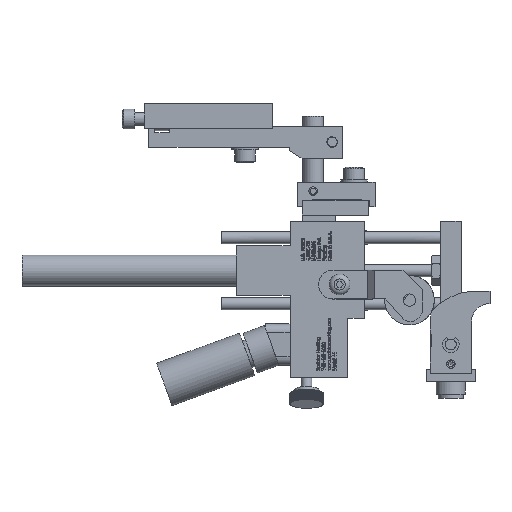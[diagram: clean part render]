
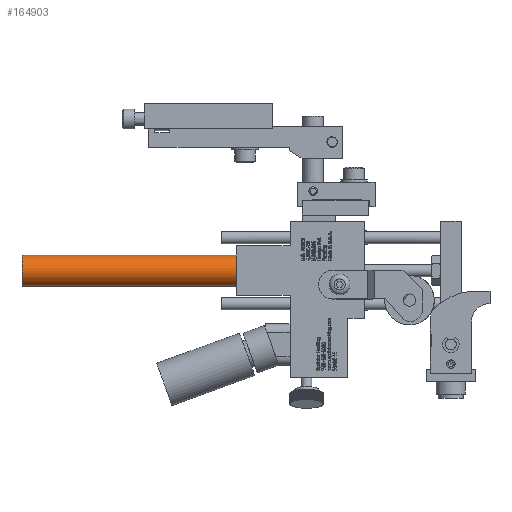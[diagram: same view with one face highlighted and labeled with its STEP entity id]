
A CAD part, top view. The second image highlights one B-rep face of the part: STEP entity #164903.
In plain terms, the highlighted cylindrical face has radius 5.969 mm (diameter 11.938 mm), a full revolution.
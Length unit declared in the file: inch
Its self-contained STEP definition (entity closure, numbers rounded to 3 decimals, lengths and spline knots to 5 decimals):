
#164621=CARTESIAN_POINT('',(-1.4995,0.8125,0.61));
#164622=VERTEX_POINT('',#164621);
#164623=CARTESIAN_POINT('',(-1.4995,0.8125,0.375));
#164624=DIRECTION('',(1.0,0.0,0.0));
#164625=DIRECTION('',(0.0,0.0,-1.0));
#164626=AXIS2_PLACEMENT_3D('',#164623,#164624,#164625);
#164627=CIRCLE('',#164626,0.235);
#164628=EDGE_CURVE('',#164622,#164622,#164627,.T.);
#164869=CARTESIAN_POINT('',(-4.7495,0.8125,0.61));
#164870=VERTEX_POINT('',#164869);
#164871=CARTESIAN_POINT('',(-4.7495,0.8125,0.375));
#164872=DIRECTION('',(1.0,0.0,0.0));
#164873=DIRECTION('',(0.0,0.0,-1.0));
#164874=AXIS2_PLACEMENT_3D('',#164871,#164872,#164873);
#164875=CIRCLE('',#164874,0.235);
#164876=EDGE_CURVE('',#164870,#164870,#164875,.T.);
#164892=CARTESIAN_POINT('',(-1.4995,0.8125,0.375));
#164893=DIRECTION('',(-1.0,0.,0.));
#164894=DIRECTION('',(0.0,0.0,-1.0));
#164895=AXIS2_PLACEMENT_3D('',#164892,#164893,#164894);
#164896=CYLINDRICAL_SURFACE('',#164895,0.235);
#164897=ORIENTED_EDGE('',*,*,#164876,.T.);
#164898=EDGE_LOOP('',(#164897));
#164899=FACE_OUTER_BOUND('',#164898,.T.);
#164900=ORIENTED_EDGE('',*,*,#164628,.F.);
#164901=EDGE_LOOP('',(#164900));
#164902=FACE_BOUND('',#164901,.T.);
#164903=ADVANCED_FACE('',(#164899,#164902),#164896,.T.);
